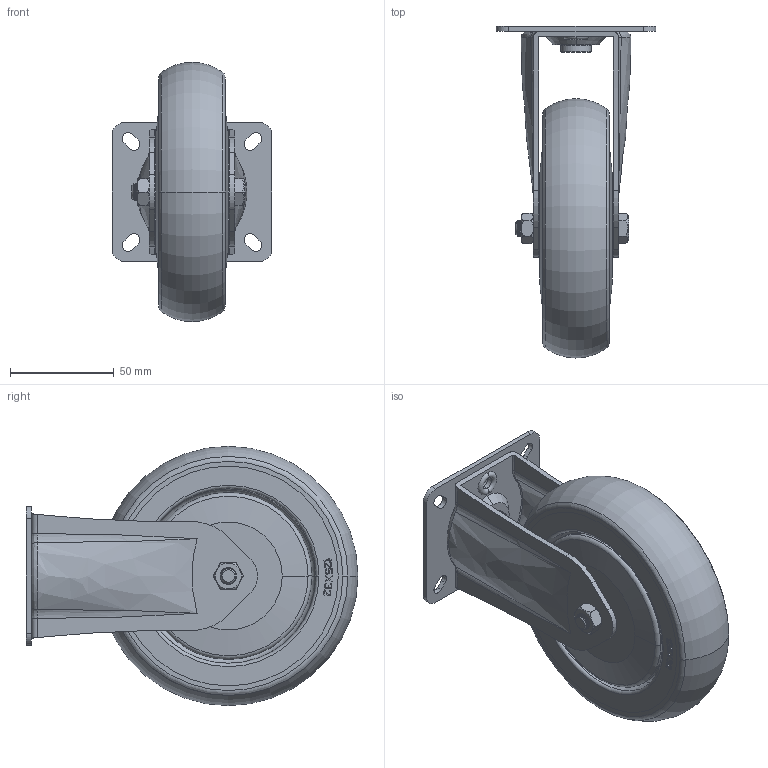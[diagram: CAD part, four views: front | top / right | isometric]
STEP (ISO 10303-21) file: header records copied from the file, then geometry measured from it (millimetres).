
FILE_DESCRIPTION((''),'2;1');
FILE_NAME('5301-125-1_ASM','2018-09-15T',('new'),(''),'PRO/ENGINEER BY PARAMETRIC TECHNOLOGY CORPORATION, 2015240','PRO/ENGINEER BY PARAMETRIC TECHNOLOGY CORPORATION, 2015240','');
FILE_SCHEMA(('CONFIG_CONTROL_DESIGN'));
Length unit declared in the file: millimetre
Products named in the file (11): 5301-125-1ZJ; 67X77-GD-FK; 125X32NS__1; 125X32DL__1; 6202Z__1; 125X32JSG__1; 5102-125-1-DL_ASM; M8X60LS__1; M8LM__1; PTD-; 5301-125-1_ASM
Assembly tree (11 placements, depth 3):
  5301-125-1_ASM
    5301-125-1ZJ
    67X77-GD-FK
    5102-125-1-DL_ASM
      125X32NS__1
      125X32DL__1
      6202Z__1
      125X32JSG__1  x2
    M8X60LS__1
    M8LM__1
    PTD-
Bounding box: 77 x 160 x 125 mm (x, y, z)
Volume: 318179.4 mm3; surface area: 148680.6 mm2
Topology: 19 solids, 19 shells, 804 faces, 2078 edges, 1323 vertices
Faces by surface type: plane 442, cylinder 162, torus 84, cone 54, bspline 46, sphere 16
Entity records: 30005 total; most frequent: CARTESIAN_POINT 11211, ORIENTED_EDGE 3928, DIRECTION 3736, EDGE_CURVE 1964, VECTOR 1318, LINE 1318, VERTEX_POINT 1273, AXIS2_PLACEMENT_3D 1209
